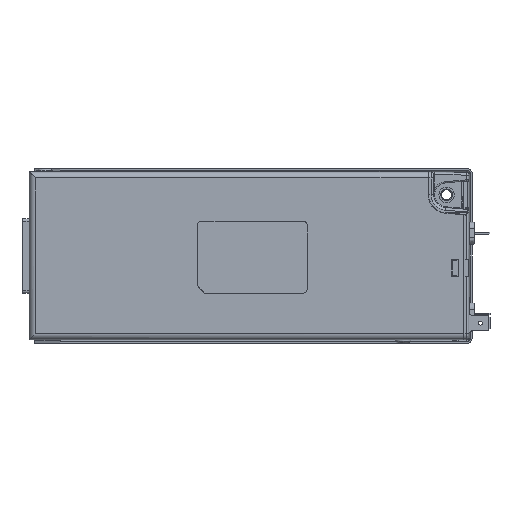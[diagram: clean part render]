
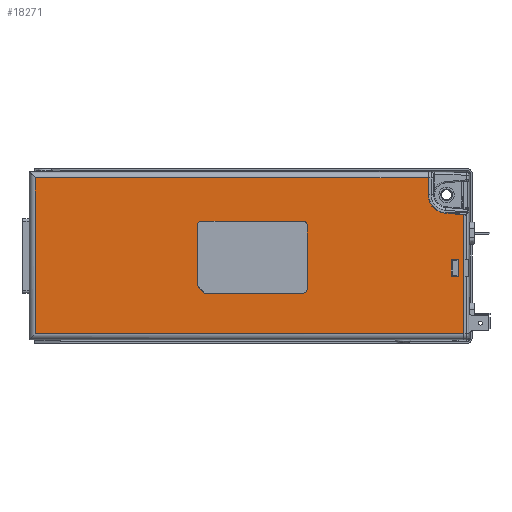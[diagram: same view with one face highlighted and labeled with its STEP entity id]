
A CAD part, top view. The second image highlights one B-rep face of the part: STEP entity #18271.
In plain terms, the highlighted planar face has unit normal (0, 0, 1).
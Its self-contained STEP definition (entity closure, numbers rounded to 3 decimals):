
#857=FACE_BOUND('',#2583,.T.);
#858=FACE_BOUND('',#2584,.T.);
#969=CIRCLE('',#19384,7.7);
#970=CIRCLE('',#19386,2.);
#971=CIRCLE('',#19387,2.);
#972=CIRCLE('',#19388,2.);
#1549=FACE_OUTER_BOUND('',#2582,.T.);
#2582=EDGE_LOOP('',(#11641,#11642,#11643,#11644,#11645,#11646,#11647,#11648));
#2583=EDGE_LOOP('',(#11649,#11650,#11651,#11652));
#2584=EDGE_LOOP('',(#11653,#11654,#11655,#11656,#11657,#11658,#11659,#11660,
#11661,#11662));
#3783=LINE('',#26932,#5498);
#3788=LINE('',#26943,#5503);
#3790=LINE('',#26962,#5505);
#3791=LINE('',#26964,#5506);
#3792=LINE('',#26965,#5507);
#3793=LINE('',#26967,#5508);
#3794=LINE('',#26968,#5509);
#3795=LINE('',#26971,#5510);
#3796=LINE('',#26973,#5511);
#3797=LINE('',#26975,#5512);
#3798=LINE('',#26976,#5513);
#3799=LINE('',#26979,#5514);
#3800=LINE('',#26983,#5515);
#3801=LINE('',#26987,#5516);
#3802=LINE('',#26991,#5517);
#3803=LINE('',#26993,#5518);
#3804=LINE('',#26995,#5519);
#3805=LINE('',#26996,#5520);
#5498=VECTOR('',#21420,10.);
#5503=VECTOR('',#21431,10.);
#5505=VECTOR('',#21439,10.);
#5506=VECTOR('',#21440,10.);
#5507=VECTOR('',#21441,10.);
#5508=VECTOR('',#21442,10.);
#5509=VECTOR('',#21443,10.);
#5510=VECTOR('',#21444,10.);
#5511=VECTOR('',#21445,10.);
#5512=VECTOR('',#21446,10.);
#5513=VECTOR('',#21447,10.);
#5514=VECTOR('',#21448,10.);
#5515=VECTOR('',#21451,10.);
#5516=VECTOR('',#21454,10.);
#5517=VECTOR('',#21457,10.);
#5518=VECTOR('',#21458,10.);
#5519=VECTOR('',#21459,10.);
#5520=VECTOR('',#21460,10.);
#7266=VERTEX_POINT('',#26929);
#7267=VERTEX_POINT('',#26931);
#7270=VERTEX_POINT('',#26941);
#7272=VERTEX_POINT('',#26956);
#7273=VERTEX_POINT('',#26960);
#7274=VERTEX_POINT('',#26961);
#7275=VERTEX_POINT('',#26963);
#7276=VERTEX_POINT('',#26966);
#7277=VERTEX_POINT('',#26969);
#7278=VERTEX_POINT('',#26970);
#7279=VERTEX_POINT('',#26972);
#7280=VERTEX_POINT('',#26974);
#7281=VERTEX_POINT('',#26977);
#7282=VERTEX_POINT('',#26978);
#7283=VERTEX_POINT('',#26980);
#7284=VERTEX_POINT('',#26982);
#7285=VERTEX_POINT('',#26984);
#7286=VERTEX_POINT('',#26986);
#7287=VERTEX_POINT('',#26988);
#7288=VERTEX_POINT('',#26990);
#7289=VERTEX_POINT('',#26992);
#7290=VERTEX_POINT('',#26994);
#8941=EDGE_CURVE('',#7266,#7267,#3783,.T.);
#8947=EDGE_CURVE('',#7266,#7270,#3788,.T.);
#8950=EDGE_CURVE('',#7270,#7272,#969,.T.);
#8951=EDGE_CURVE('',#7273,#7274,#3790,.T.);
#8952=EDGE_CURVE('',#7274,#7275,#3791,.T.);
#8953=EDGE_CURVE('',#7267,#7275,#3792,.T.);
#8954=EDGE_CURVE('',#7272,#7276,#3793,.T.);
#8955=EDGE_CURVE('',#7276,#7273,#3794,.T.);
#8956=EDGE_CURVE('',#7277,#7278,#3795,.T.);
#8957=EDGE_CURVE('',#7278,#7279,#3796,.T.);
#8958=EDGE_CURVE('',#7279,#7280,#3797,.T.);
#8959=EDGE_CURVE('',#7280,#7277,#3798,.T.);
#8960=EDGE_CURVE('',#7281,#7282,#3799,.T.);
#8961=EDGE_CURVE('',#7283,#7281,#970,.T.);
#8962=EDGE_CURVE('',#7284,#7283,#3800,.T.);
#8963=EDGE_CURVE('',#7285,#7284,#971,.T.);
#8964=EDGE_CURVE('',#7286,#7285,#3801,.T.);
#8965=EDGE_CURVE('',#7287,#7286,#972,.T.);
#8966=EDGE_CURVE('',#7288,#7287,#3802,.T.);
#8967=EDGE_CURVE('',#7289,#7288,#3803,.T.);
#8968=EDGE_CURVE('',#7290,#7289,#3804,.T.);
#8969=EDGE_CURVE('',#7282,#7290,#3805,.T.);
#11641=ORIENTED_EDGE('',*,*,#8951,.T.);
#11642=ORIENTED_EDGE('',*,*,#8952,.T.);
#11643=ORIENTED_EDGE('',*,*,#8953,.F.);
#11644=ORIENTED_EDGE('',*,*,#8941,.F.);
#11645=ORIENTED_EDGE('',*,*,#8947,.T.);
#11646=ORIENTED_EDGE('',*,*,#8950,.T.);
#11647=ORIENTED_EDGE('',*,*,#8954,.T.);
#11648=ORIENTED_EDGE('',*,*,#8955,.T.);
#11649=ORIENTED_EDGE('',*,*,#8956,.T.);
#11650=ORIENTED_EDGE('',*,*,#8957,.T.);
#11651=ORIENTED_EDGE('',*,*,#8958,.T.);
#11652=ORIENTED_EDGE('',*,*,#8959,.T.);
#11653=ORIENTED_EDGE('',*,*,#8960,.F.);
#11654=ORIENTED_EDGE('',*,*,#8961,.F.);
#11655=ORIENTED_EDGE('',*,*,#8962,.F.);
#11656=ORIENTED_EDGE('',*,*,#8963,.F.);
#11657=ORIENTED_EDGE('',*,*,#8964,.F.);
#11658=ORIENTED_EDGE('',*,*,#8965,.F.);
#11659=ORIENTED_EDGE('',*,*,#8966,.F.);
#11660=ORIENTED_EDGE('',*,*,#8967,.F.);
#11661=ORIENTED_EDGE('',*,*,#8968,.F.);
#11662=ORIENTED_EDGE('',*,*,#8969,.F.);
#16695=PLANE('',#19385);
#18271=ADVANCED_FACE('',(#1549,#857,#858),#16695,.T.);
#19384=AXIS2_PLACEMENT_3D('',#26958,#21435,#21436);
#19385=AXIS2_PLACEMENT_3D('',#26959,#21437,#21438);
#19386=AXIS2_PLACEMENT_3D('',#26981,#21449,#21450);
#19387=AXIS2_PLACEMENT_3D('',#26985,#21452,#21453);
#19388=AXIS2_PLACEMENT_3D('',#26989,#21455,#21456);
#21420=DIRECTION('',(0.676,-0.737,0.));
#21431=DIRECTION('',(-0.996,0.087,0.));
#21435=DIRECTION('center_axis',(0.,0.,
-1.));
#21436=DIRECTION('ref_axis',(-1.,0.,0.));
#21437=DIRECTION('center_axis',(0.,0.,
1.));
#21438=DIRECTION('ref_axis',(0.,-1.,0.));
#21439=DIRECTION('',(0.,-1.,0.));
#21440=DIRECTION('',(1.,0.,0.));
#21441=DIRECTION('',(0.,-1.,0.));
#21442=DIRECTION('',(0.,1.,0.));
#21443=DIRECTION('',(-1.,0.,0.));
#21444=DIRECTION('',(-1.,0.,0.));
#21445=DIRECTION('',(0.,1.,0.));
#21446=DIRECTION('',(1.,0.,0.));
#21447=DIRECTION('',(0.,-1.,0.));
#21448=DIRECTION('',(0.,-1.,0.));
#21449=DIRECTION('center_axis',(0.,0.,
1.));
#21450=DIRECTION('ref_axis',(-0.707,0.707,0.));
#21451=DIRECTION('',(-1.,0.,0.));
#21452=DIRECTION('center_axis',(0.,0.,
1.));
#21453=DIRECTION('ref_axis',(0.707,0.707,0.));
#21454=DIRECTION('',(0.,1.,0.));
#21455=DIRECTION('center_axis',(0.,0.,
1.));
#21456=DIRECTION('ref_axis',(0.707,-0.707,0.));
#21457=DIRECTION('',(1.,0.,0.));
#21458=DIRECTION('',(0.707,-0.707,0.));
#21459=DIRECTION('',(0.707,-0.707,0.));
#21460=DIRECTION('',(0.,-1.,0.));
#26929=CARTESIAN_POINT('',(90.502,17.202,34.9));
#26931=CARTESIAN_POINT('',(91.,16.658,34.9));
#26932=CARTESIAN_POINT('',(74.371,34.805,34.9));
#26941=CARTESIAN_POINT('',(83.329,17.829,34.9));
#26943=CARTESIAN_POINT('',(46.839,21.022,34.9));
#26956=CARTESIAN_POINT('',(76.3,25.5,34.9));
#26958=CARTESIAN_POINT('Origin',(84.,25.5,34.9));
#26959=CARTESIAN_POINT('Origin',(0.5,0.,
34.9));
#26960=CARTESIAN_POINT('',(-87.5,32.5,34.9));
#26961=CARTESIAN_POINT('',(-87.5,-32.5,34.9));
#26962=CARTESIAN_POINT('',(-87.5,-16.25,34.9));
#26963=CARTESIAN_POINT('',(91.,-32.5,34.9));
#26964=CARTESIAN_POINT('',(-44.75,-32.5,34.9));
#26965=CARTESIAN_POINT('',(91.,35.,34.9));
#26966=CARTESIAN_POINT('',(76.3,32.5,34.9));
#26967=CARTESIAN_POINT('',(76.3,12.75,34.9));
#26968=CARTESIAN_POINT('',(45.75,32.5,34.9));
#26969=CARTESIAN_POINT('',(89.,-8.5,34.9));
#26970=CARTESIAN_POINT('',(86.,-8.5,34.9));
#26971=CARTESIAN_POINT('',(44.75,-8.5,34.9));
#26972=CARTESIAN_POINT('',(86.,-1.5,34.9));
#26973=CARTESIAN_POINT('',(86.,-4.25,34.9));
#26974=CARTESIAN_POINT('',(89.,-1.5,34.9));
#26975=CARTESIAN_POINT('',(43.25,-1.5,34.9));
#26976=CARTESIAN_POINT('',(89.,-0.75,34.9));
#26977=CARTESIAN_POINT('',(-20.,12.475,34.9));
#26978=CARTESIAN_POINT('',(-20.,-9.025,34.9));
#26979=CARTESIAN_POINT('',(-20.,14.475,34.9));
#26980=CARTESIAN_POINT('',(-18.,14.475,34.9));
#26981=CARTESIAN_POINT('Origin',(-18.,12.475,34.9));
#26982=CARTESIAN_POINT('',(24.,14.475,34.9));
#26983=CARTESIAN_POINT('',(26.,14.475,34.9));
#26984=CARTESIAN_POINT('',(26.,12.475,34.9));
#26985=CARTESIAN_POINT('Origin',(24.,12.475,34.9));
#26986=CARTESIAN_POINT('',(26.,-13.525,34.9));
#26987=CARTESIAN_POINT('',(26.,-15.525,34.9));
#26988=CARTESIAN_POINT('',(24.,-15.525,34.9));
#26989=CARTESIAN_POINT('Origin',(24.,-13.525,34.9));
#26990=CARTESIAN_POINT('',(-17.,-15.525,34.9));
#26991=CARTESIAN_POINT('',(-20.,-15.525,34.9));
#26992=CARTESIAN_POINT('',(-17.525,-15.,34.9));
#26993=CARTESIAN_POINT('',(-16.5,-16.025,34.9));
#26994=CARTESIAN_POINT('',(-20.,-12.525,34.9));
#26995=CARTESIAN_POINT('',(-16.5,-16.025,34.9));
#26996=CARTESIAN_POINT('',(-20.,14.475,34.9));
